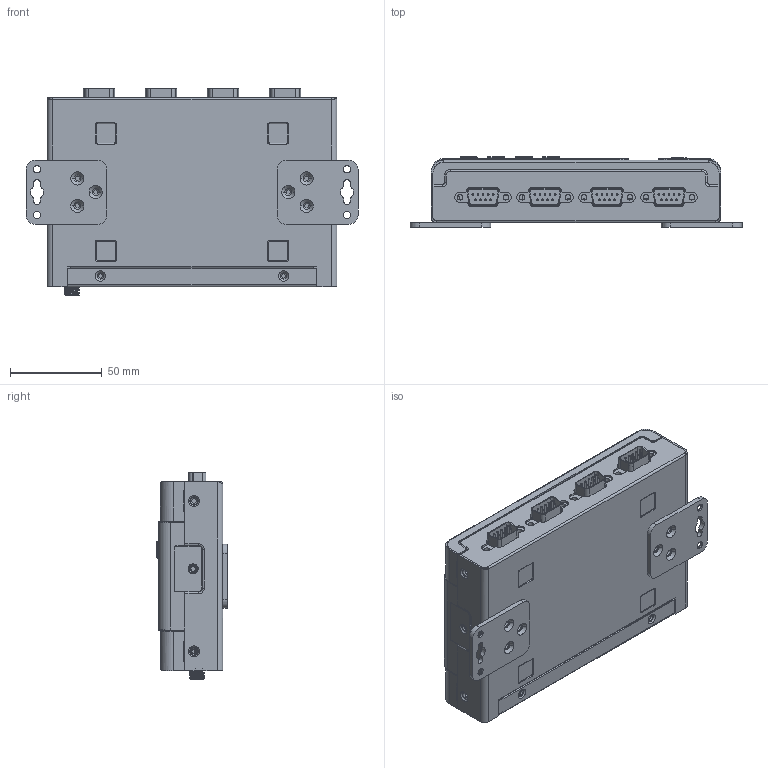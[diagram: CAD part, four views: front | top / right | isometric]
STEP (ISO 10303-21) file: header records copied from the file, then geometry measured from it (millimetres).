
FILE_DESCRIPTION((''),'2;1');
FILE_NAME('PRT0122','2013-11-13T',('Sam_Liu'),(''),'PRO/ENGINEER BY PARAMETRIC TECHNOLOGY CORPORATION, 2009360','PRO/ENGINEER BY PARAMETRIC TECHNOLOGY CORPORATION, 2009360','');
FILE_SCHEMA(('CONFIG_CONTROL_DESIGN'));
Products named in the file (1): PRT0122
Bounding box: 181 x 38.6 x 112.4 mm (x, y, z)
Volume: 96382.5 mm3; surface area: 169056.2 mm2
Topology: 34 solids, 35 shells, 3057 faces, 7627 edges, 4862 vertices
Faces by surface type: plane 1699, cylinder 1086, torus 121, bspline 85, cone 50, extrusion 16
Entity records: 95488 total; most frequent: CARTESIAN_POINT 21573, DIRECTION 15262, ORIENTED_EDGE 15254, EDGE_CURVE 7627, AXIS2_PLACEMENT_3D 5158, VECTOR 4946, LINE 4930, VERTEX_POINT 4862
